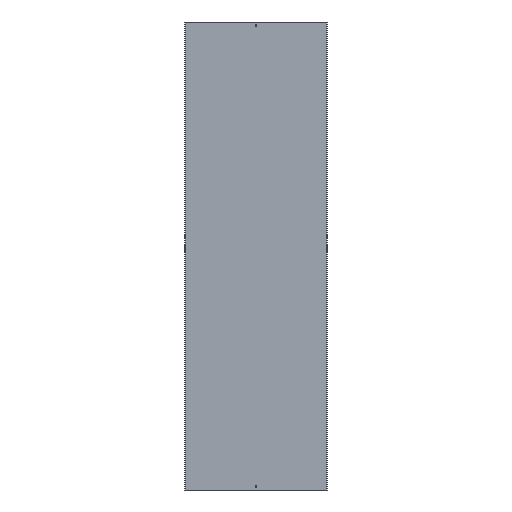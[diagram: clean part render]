
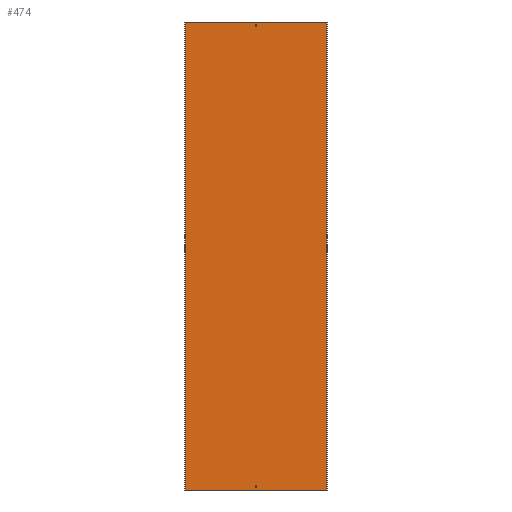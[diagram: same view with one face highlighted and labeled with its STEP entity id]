
A CAD part, front view. The second image highlights one B-rep face of the part: STEP entity #474.
In plain terms, the highlighted planar face has unit normal (0, -1, 0).
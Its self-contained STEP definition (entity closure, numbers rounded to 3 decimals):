
#4 = LINE ( 'NONE', #178, #528 ) ;
#14 = ORIENTED_EDGE ( 'NONE', *, *, #416, .F. ) ;
#20 = ORIENTED_EDGE ( 'NONE', *, *, #420, .T. ) ;
#22 = FACE_OUTER_BOUND ( 'NONE', #265, .T. ) ;
#30 = VECTOR ( 'NONE', #403, 1000. ) ;
#35 = DIRECTION ( 'NONE',  ( -1., 0., 0. ) ) ;
#37 = EDGE_LOOP ( 'NONE', ( #527, #20, #460, #196 ) ) ;
#51 = LINE ( 'NONE', #322, #105 ) ;
#55 = VECTOR ( 'NONE', #210, 1000. ) ;
#73 = ORIENTED_EDGE ( 'NONE', *, *, #386, .T. ) ;
#76 = DIRECTION ( 'NONE',  ( -1., 0., 0. ) ) ;
#83 = VERTEX_POINT ( 'NONE', #498 ) ;
#91 = AXIS2_PLACEMENT_3D ( 'NONE', #382, #231, #279 ) ;
#93 = LINE ( 'NONE', #312, #273 ) ;
#101 = PLANE ( 'NONE',  #91 ) ;
#104 = FACE_BOUND ( 'NONE', #431, .T. ) ;
#105 = VECTOR ( 'NONE', #76, 1000. ) ;
#113 = VERTEX_POINT ( 'NONE', #138 ) ;
#117 = LINE ( 'NONE', #121, #392 ) ;
#121 = CARTESIAN_POINT ( 'NONE',  ( -303.5, -1.5, -979. ) ) ;
#124 = VERTEX_POINT ( 'NONE', #254 ) ;
#125 = EDGE_CURVE ( 'NONE', #564, #83, #131, .T. ) ;
#128 = ORIENTED_EDGE ( 'NONE', *, *, #590, .F. ) ;
#131 = LINE ( 'NONE', #297, #278 ) ;
#134 = DIRECTION ( 'NONE',  ( 1., 0., 0. ) ) ;
#138 = CARTESIAN_POINT ( 'NONE',  ( -302., -1.5, 1000. ) ) ;
#147 = CARTESIAN_POINT ( 'NONE',  ( 3.25, -1.5, 988. ) ) ;
#152 = CARTESIAN_POINT ( 'NONE',  ( -303.5, -1.5, 988. ) ) ;
#165 = DIRECTION ( 'NONE',  ( -1., 0., 0. ) ) ;
#171 = DIRECTION ( 'NONE',  ( 1., 0., 0. ) ) ;
#178 = CARTESIAN_POINT ( 'NONE',  ( -302., -1.5, 1000. ) ) ;
#180 = EDGE_CURVE ( 'NONE', #477, #124, #188, .T. ) ;
#187 = ORIENTED_EDGE ( 'NONE', *, *, #280, .F. ) ;
#188 = LINE ( 'NONE', #374, #370 ) ;
#192 = ORIENTED_EDGE ( 'NONE', *, *, #555, .F. ) ;
#196 = ORIENTED_EDGE ( 'NONE', *, *, #336, .T. ) ;
#202 = CARTESIAN_POINT ( 'NONE',  ( 302., -1.5, 1000. ) ) ;
#210 = DIRECTION ( 'NONE',  ( 0., 0., 1. ) ) ;
#212 = CARTESIAN_POINT ( 'NONE',  ( -3.25, -1.5, -988. ) ) ;
#226 = VERTEX_POINT ( 'NONE', #147 ) ;
#231 = DIRECTION ( 'NONE',  ( 0., -1., 0. ) ) ;
#235 = DIRECTION ( 'NONE',  ( 0., 0., 1. ) ) ;
#247 = LINE ( 'NONE', #342, #346 ) ;
#254 = CARTESIAN_POINT ( 'NONE',  ( -3.25, -1.5, 979. ) ) ;
#255 = LINE ( 'NONE', #202, #30 ) ;
#261 = ORIENTED_EDGE ( 'NONE', *, *, #397, .T. ) ;
#265 = EDGE_LOOP ( 'NONE', ( #452, #192, #261, #73 ) ) ;
#270 = EDGE_CURVE ( 'NONE', #363, #507, #247, .T. ) ;
#272 = VECTOR ( 'NONE', #134, 1000. ) ;
#273 = VECTOR ( 'NONE', #461, 1000. ) ;
#274 = VERTEX_POINT ( 'NONE', #385 ) ;
#278 = VECTOR ( 'NONE', #35, 1000. ) ;
#279 = DIRECTION ( 'NONE',  ( 0., 0., -1. ) ) ;
#280 = EDGE_CURVE ( 'NONE', #287, #226, #295, .T. ) ;
#287 = VERTEX_POINT ( 'NONE', #390 ) ;
#295 = LINE ( 'NONE', #439, #55 ) ;
#297 = CARTESIAN_POINT ( 'NONE',  ( -303.5, -1.5, -1000. ) ) ;
#301 = EDGE_CURVE ( 'NONE', #274, #383, #117, .T. ) ;
#312 = CARTESIAN_POINT ( 'NONE',  ( 3.25, -1.5, 1000. ) ) ;
#316 = CARTESIAN_POINT ( 'NONE',  ( -3.25, -1.5, 1000. ) ) ;
#322 = CARTESIAN_POINT ( 'NONE',  ( -303.5, -1.5, 1000. ) ) ;
#327 = LINE ( 'NONE', #316, #488 ) ;
#336 = EDGE_CURVE ( 'NONE', #383, #363, #93, .T. ) ;
#342 = CARTESIAN_POINT ( 'NONE',  ( -303.5, -1.5, -988. ) ) ;
#346 = VECTOR ( 'NONE', #448, 1000. ) ;
#348 = VECTOR ( 'NONE', #165, 1000. ) ;
#357 = ORIENTED_EDGE ( 'NONE', *, *, #180, .F. ) ;
#363 = VERTEX_POINT ( 'NONE', #589 ) ;
#366 = LINE ( 'NONE', #152, #348 ) ;
#370 = VECTOR ( 'NONE', #466, 1000. ) ;
#373 = CARTESIAN_POINT ( 'NONE',  ( 302., -1.5, 1000. ) ) ;
#374 = CARTESIAN_POINT ( 'NONE',  ( -3.25, -1.5, 1000. ) ) ;
#382 = CARTESIAN_POINT ( 'NONE',  ( -303.5, -1.5, 1000. ) ) ;
#383 = VERTEX_POINT ( 'NONE', #408 ) ;
#385 = CARTESIAN_POINT ( 'NONE',  ( -3.25, -1.5, -979. ) ) ;
#386 = EDGE_CURVE ( 'NONE', #113, #83, #4, .T. ) ;
#387 = CARTESIAN_POINT ( 'NONE',  ( 302., -1.5, -1000. ) ) ;
#390 = CARTESIAN_POINT ( 'NONE',  ( 3.25, -1.5, 979. ) ) ;
#392 = VECTOR ( 'NONE', #171, 1000. ) ;
#397 = EDGE_CURVE ( 'NONE', #409, #113, #51, .T. ) ;
#403 = DIRECTION ( 'NONE',  ( 0., 0., -1. ) ) ;
#408 = CARTESIAN_POINT ( 'NONE',  ( 3.25, -1.5, -979. ) ) ;
#409 = VERTEX_POINT ( 'NONE', #373 ) ;
#416 = EDGE_CURVE ( 'NONE', #226, #477, #366, .T. ) ;
#420 = EDGE_CURVE ( 'NONE', #507, #274, #327, .T. ) ;
#431 = EDGE_LOOP ( 'NONE', ( #357, #14, #187, #128 ) ) ;
#439 = CARTESIAN_POINT ( 'NONE',  ( 3.25, -1.5, 1000. ) ) ;
#448 = DIRECTION ( 'NONE',  ( -1., 0., 0. ) ) ;
#452 = ORIENTED_EDGE ( 'NONE', *, *, #125, .F. ) ;
#460 = ORIENTED_EDGE ( 'NONE', *, *, #301, .T. ) ;
#461 = DIRECTION ( 'NONE',  ( 0., 0., -1. ) ) ;
#464 = DIRECTION ( 'NONE',  ( 0., 0., -1. ) ) ;
#466 = DIRECTION ( 'NONE',  ( 0., 0., -1. ) ) ;
#474 = ADVANCED_FACE ( 'NONE', ( #104, #22, #559 ), #101, .T. ) ;
#477 = VERTEX_POINT ( 'NONE', #562 ) ;
#488 = VECTOR ( 'NONE', #235, 1000. ) ;
#498 = CARTESIAN_POINT ( 'NONE',  ( -302., -1.5, -1000. ) ) ;
#507 = VERTEX_POINT ( 'NONE', #212 ) ;
#527 = ORIENTED_EDGE ( 'NONE', *, *, #270, .T. ) ;
#528 = VECTOR ( 'NONE', #464, 1000. ) ;
#548 = CARTESIAN_POINT ( 'NONE',  ( -303.5, -1.5, 979. ) ) ;
#555 = EDGE_CURVE ( 'NONE', #409, #564, #255, .T. ) ;
#559 = FACE_BOUND ( 'NONE', #37, .T. ) ;
#562 = CARTESIAN_POINT ( 'NONE',  ( -3.25, -1.5, 988. ) ) ;
#564 = VERTEX_POINT ( 'NONE', #387 ) ;
#588 = LINE ( 'NONE', #548, #272 ) ;
#589 = CARTESIAN_POINT ( 'NONE',  ( 3.25, -1.5, -988. ) ) ;
#590 = EDGE_CURVE ( 'NONE', #124, #287, #588, .T. ) ;
